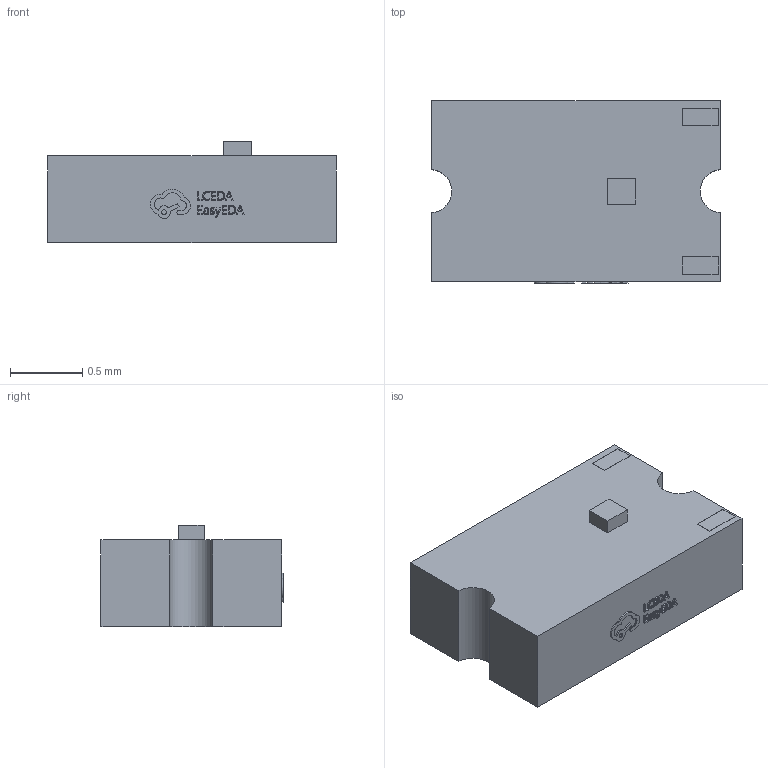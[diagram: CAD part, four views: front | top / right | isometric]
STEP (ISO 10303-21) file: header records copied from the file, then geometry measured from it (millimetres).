
FILE_DESCRIPTION(/* description */ ('STEP AP242 Edition 2','CAx-IF Rec.Pracs.---Representation and Presentation of Product Manufacturing Information (PMI)---4.0---2014-10-13','CAx-IF Rec.Pracs.---3D Tessellated Geometry---0.4---2014-09-14','2;1','CAx-IF Rec.Pracs.---User Defined Attributes---1.5---2016-08-15'),/* implementation_level */ '2;1');
FILE_NAME(/* name */ 'Assembly 1 - LED0805-RD_RED~LED0805-RD_RED~nxQB (3)',/* time_stamp */ '2026-04-02T09:55:15Z',/* author */ (''),/* organization */ (''),/* preprocessor_version */ 'ST-DEVELOPER v20',/* originating_system */ 'ONSHAPE BY PTC INC, 1.212',/* authorisation */ ' ');
FILE_SCHEMA (('AP242_MANAGED_MODEL_BASED_3D_ENGINEERING_MIM_LF { 1 0 10303 442 3 1 4 }'));
Length unit declared in the file: metre
Products named in the file (1): LED0805-RD_RED~LED0805-RD_RED~nxQB
Bounding box: 2 x 1.26 x 0.7 mm (x, y, z)
Volume: 1.5 mm3; surface area: 9.1 mm2
Topology: 1 solids, 1 shells, 306 faces, 825 edges, 550 vertices
Faces by surface type: plane 193, cylinder 96, bspline 17
Entity records: 12537 total; most frequent: CARTESIAN_POINT 2765, ORIENTED_EDGE 1650, DIRECTION 1483, EDGE_CURVE 825, VERTEX_POINT 550, LINE 515, VECTOR 515, AXIS2_PLACEMENT_3D 484
